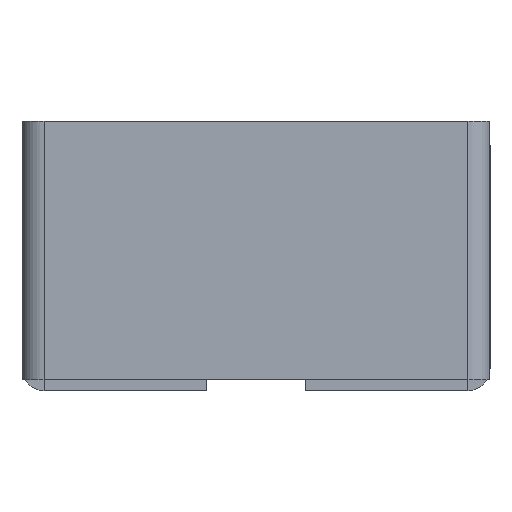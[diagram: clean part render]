
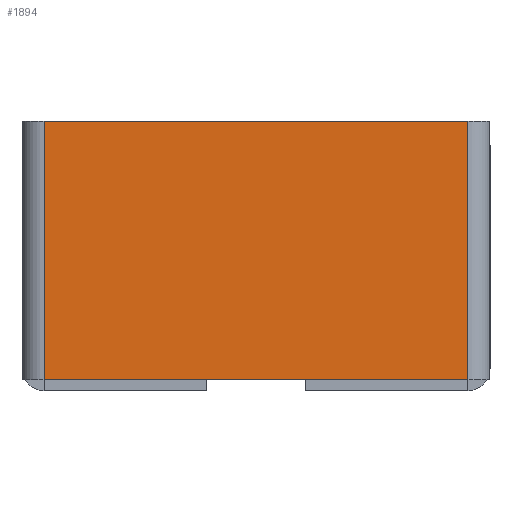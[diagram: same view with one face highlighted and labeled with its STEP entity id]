
A CAD part, front view. The second image highlights one B-rep face of the part: STEP entity #1894.
In plain terms, the highlighted planar face has unit normal (0, -1, 0).
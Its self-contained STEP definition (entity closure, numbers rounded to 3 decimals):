
#142 = EDGE_CURVE ( 'NONE', #9162, #7206, #6563, .T. ) ;
#591 = EDGE_CURVE ( 'NONE', #9162, #9593, #2571, .T. ) ;
#605 = CARTESIAN_POINT ( 'NONE',  ( -50., -2.5, -58. ) ) ;
#1308 = CARTESIAN_POINT ( 'NONE',  ( 0., -2.5, 0. ) ) ;
#1894 = ADVANCED_FACE ( 'NONE', ( #4390 ), #3530, .F. ) ;
#2571 = LINE ( 'NONE', #6586, #9081 ) ;
#2727 = VECTOR ( 'NONE', #9514, 1000. ) ;
#3089 = CARTESIAN_POINT ( 'NONE',  ( 47.5, -2.5, -58. ) ) ;
#3115 = VECTOR ( 'NONE', #9104, 1000. ) ;
#3530 = PLANE ( 'NONE',  #9254 ) ;
#4275 = DIRECTION ( 'NONE',  ( 0., 0., 1. ) ) ;
#4390 = FACE_OUTER_BOUND ( 'NONE', #8658, .T. ) ;
#4556 = EDGE_CURVE ( 'NONE', #7290, #9593, #7575, .T. ) ;
#5960 = EDGE_CURVE ( 'NONE', #7290, #7206, #6961, .T. ) ;
#6563 = LINE ( 'NONE', #7615, #2727 ) ;
#6585 = ORIENTED_EDGE ( 'NONE', *, *, #5960, .T. ) ;
#6586 = CARTESIAN_POINT ( 'NONE',  ( -47.5, -2.5, 0. ) ) ;
#6675 = DIRECTION ( 'NONE',  ( -1., 0., 0. ) ) ;
#6751 = CARTESIAN_POINT ( 'NONE',  ( -47.5, -2.5, 0. ) ) ;
#6961 = LINE ( 'NONE', #3089, #3115 ) ;
#7200 = CARTESIAN_POINT ( 'NONE',  ( 47.5, -2.5, -58. ) ) ;
#7206 = VERTEX_POINT ( 'NONE', #8530 ) ;
#7290 = VERTEX_POINT ( 'NONE', #7200 ) ;
#7575 = LINE ( 'NONE', #605, #8625 ) ;
#7615 = CARTESIAN_POINT ( 'NONE',  ( -50., -2.5, 0. ) ) ;
#8530 = CARTESIAN_POINT ( 'NONE',  ( 47.5, -2.5, 0. ) ) ;
#8625 = VECTOR ( 'NONE', #6675, 1000. ) ;
#8658 = EDGE_LOOP ( 'NONE', ( #9618, #8887, #6585, #9238 ) ) ;
#8750 = DIRECTION ( 'NONE',  ( 0., 1., 0. ) ) ;
#8887 = ORIENTED_EDGE ( 'NONE', *, *, #4556, .F. ) ;
#8960 = CARTESIAN_POINT ( 'NONE',  ( -47.5, -2.5, -58. ) ) ;
#9081 = VECTOR ( 'NONE', #9513, 1000. ) ;
#9104 = DIRECTION ( 'NONE',  ( 0., 0., 1. ) ) ;
#9162 = VERTEX_POINT ( 'NONE', #6751 ) ;
#9238 = ORIENTED_EDGE ( 'NONE', *, *, #142, .F. ) ;
#9254 = AXIS2_PLACEMENT_3D ( 'NONE', #1308, #8750, #4275 ) ;
#9513 = DIRECTION ( 'NONE',  ( 0., 0., -1. ) ) ;
#9514 = DIRECTION ( 'NONE',  ( 1., 0., 0. ) ) ;
#9593 = VERTEX_POINT ( 'NONE', #8960 ) ;
#9618 = ORIENTED_EDGE ( 'NONE', *, *, #591, .T. ) ;
